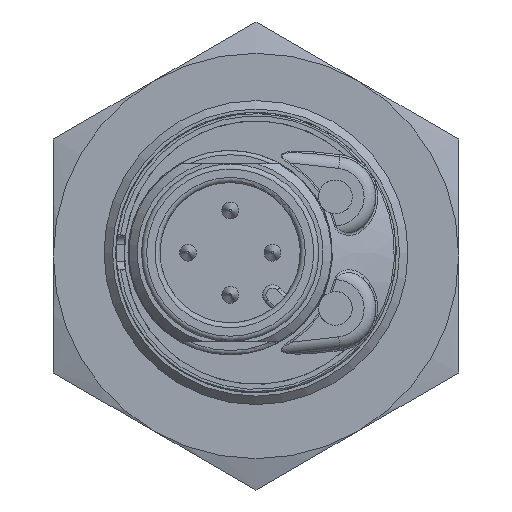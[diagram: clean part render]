
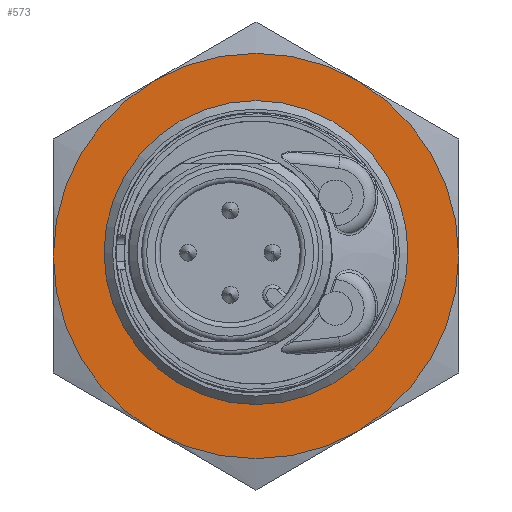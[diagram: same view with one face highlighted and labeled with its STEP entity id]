
A CAD part, left-side view. The second image highlights one B-rep face of the part: STEP entity #573.
In plain terms, the highlighted planar face has unit normal (-1, 0, 0).
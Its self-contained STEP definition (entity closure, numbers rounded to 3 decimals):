
#573 = ADVANCED_FACE( '', ( #1158, #1159 ), #1160, .T. );
#1158 = FACE_BOUND( '', #4180, .T. );
#1159 = FACE_OUTER_BOUND( '', #4181, .T. );
#1160 = PLANE( '', #4182 );
#4180 = EDGE_LOOP( '', ( #5481 ) );
#4181 = EDGE_LOOP( '', ( #5482, #5483, #5484, #5485, #5486, #5487 ) );
#4182 = AXIS2_PLACEMENT_3D( '', #5488, #5489, #5490 );
#5481 = ORIENTED_EDGE( '', *, *, #5668, .F. );
#5482 = ORIENTED_EDGE( '', *, *, #6012, .F. );
#5483 = ORIENTED_EDGE( '', *, *, #5671, .F. );
#5484 = ORIENTED_EDGE( '', *, *, #5772, .F. );
#5485 = ORIENTED_EDGE( '', *, *, #6016, .F. );
#5486 = ORIENTED_EDGE( '', *, *, #5899, .T. );
#5487 = ORIENTED_EDGE( '', *, *, #5982, .T. );
#5488 = CARTESIAN_POINT( '', ( -2., 12.6, 14.349 ) );
#5489 = DIRECTION( '', ( -1., 0., 0. ) );
#5490 = DIRECTION( '', ( 0., 0., 1. ) );
#5668 = EDGE_CURVE( '', #6217, #6217, #6218, .T. );
#5671 = EDGE_CURVE( '', #6222, #6223, #6224, .T. );
#5772 = EDGE_CURVE( '', #6397, #6222, #6399, .T. );
#5899 = EDGE_CURVE( '', #6586, #6588, #6590, .F. );
#5982 = EDGE_CURVE( '', #6588, #6276, #6712, .F. );
#6012 = EDGE_CURVE( '', #6223, #6276, #6754, .T. );
#6016 = EDGE_CURVE( '', #6586, #6397, #6758, .T. );
#6217 = VERTEX_POINT( '', #7024 );
#6218 = CIRCLE( '', #7025, 8.459 );
#6222 = VERTEX_POINT( '', #7029 );
#6223 = VERTEX_POINT( '', #7030 );
#6224 = CIRCLE( '', #7031, 12. );
#6276 = VERTEX_POINT( '', #7215 );
#6397 = VERTEX_POINT( '', #7465 );
#6399 = CIRCLE( '', #7472, 12. );
#6586 = VERTEX_POINT( '', #7996 );
#6588 = VERTEX_POINT( '', #8003 );
#6590 = CIRCLE( '', #8010, 12. );
#6712 = CIRCLE( '', #8422, 12. );
#6754 = CIRCLE( '', #8781, 12. );
#6758 = CIRCLE( '', #8795, 12. );
#7024 = CARTESIAN_POINT( '', ( -2., 0., 8.459 ) );
#7025 = AXIS2_PLACEMENT_3D( '', #9683, #9684, #9685 );
#7029 = CARTESIAN_POINT( '', ( -2., -6., -10.592 ) );
#7030 = CARTESIAN_POINT( '', ( -2., 6., -10.592 ) );
#7031 = AXIS2_PLACEMENT_3D( '', #9689, #9690, #9691 );
#7215 = CARTESIAN_POINT( '', ( -2., 12., -0.2 ) );
#7465 = CARTESIAN_POINT( '', ( -2., -12., -0.2 ) );
#7472 = AXIS2_PLACEMENT_3D( '', #9798, #9799, #9800 );
#7996 = CARTESIAN_POINT( '', ( -2., -6., 10.192 ) );
#8003 = CARTESIAN_POINT( '', ( -2., 6., 10.192 ) );
#8010 = AXIS2_PLACEMENT_3D( '', #9931, #9932, #9933 );
#8422 = AXIS2_PLACEMENT_3D( '', #10018, #10019, #10020 );
#8781 = AXIS2_PLACEMENT_3D( '', #10047, #10048, #10049 );
#8795 = AXIS2_PLACEMENT_3D( '', #10050, #10051, #10052 );
#9683 = CARTESIAN_POINT( '', ( -2., 0., 0. ) );
#9684 = DIRECTION( '', ( -1., 0., 0. ) );
#9685 = DIRECTION( '', ( 0., 0., 1. ) );
#9689 = CARTESIAN_POINT( '', ( -2., 0., -0.2 ) );
#9690 = DIRECTION( '', ( 1., 0., 0. ) );
#9691 = DIRECTION( '', ( 0., 0., -1. ) );
#9798 = CARTESIAN_POINT( '', ( -2., 0., -0.2 ) );
#9799 = DIRECTION( '', ( 1., 0., 0. ) );
#9800 = DIRECTION( '', ( 0., 0., -1. ) );
#9931 = CARTESIAN_POINT( '', ( -2., 0., -0.2 ) );
#9932 = DIRECTION( '', ( 1., 0., 0. ) );
#9933 = DIRECTION( '', ( 0., 0., -1. ) );
#10018 = CARTESIAN_POINT( '', ( -2., 0., -0.2 ) );
#10019 = DIRECTION( '', ( 1., 0., 0. ) );
#10020 = DIRECTION( '', ( 0., 0., -1. ) );
#10047 = CARTESIAN_POINT( '', ( -2., 0., -0.2 ) );
#10048 = DIRECTION( '', ( 1., 0., 0. ) );
#10049 = DIRECTION( '', ( 0., 0., -1. ) );
#10050 = CARTESIAN_POINT( '', ( -2., 0., -0.2 ) );
#10051 = DIRECTION( '', ( 1., 0., 0. ) );
#10052 = DIRECTION( '', ( 0., 0., -1. ) );
